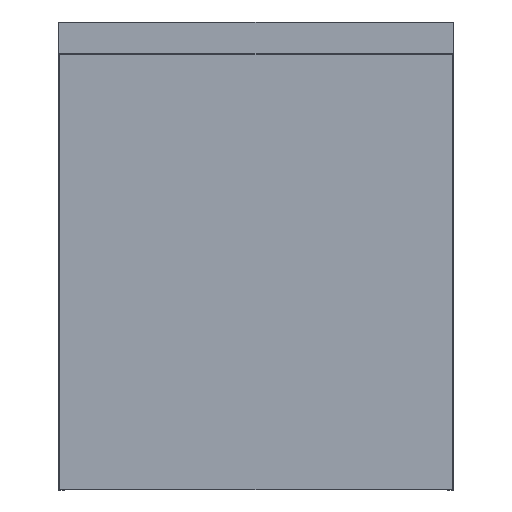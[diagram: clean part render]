
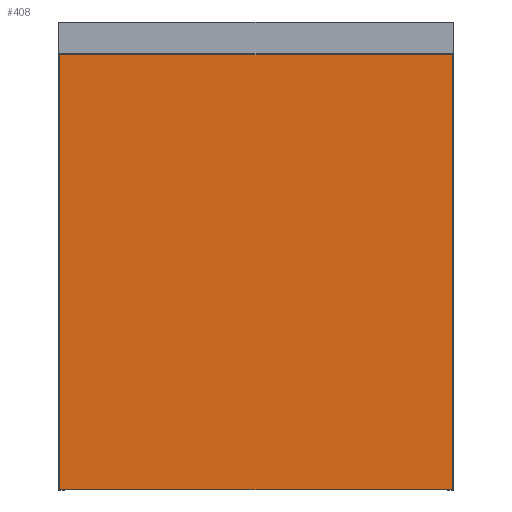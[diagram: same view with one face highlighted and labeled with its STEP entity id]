
A CAD part, top view. The second image highlights one B-rep face of the part: STEP entity #408.
In plain terms, the highlighted planar face has unit normal (0, 0, 1).
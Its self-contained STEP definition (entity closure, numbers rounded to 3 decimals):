
#8 = EDGE_LOOP ( 'NONE', ( #275, #427, #733, #431 ) ) ;
#99 = DIRECTION ( 'NONE',  ( -1., 0., 0. ) ) ;
#130 = CARTESIAN_POINT ( 'NONE',  ( 599., -356., 124. ) ) ;
#136 = CARTESIAN_POINT ( 'NONE',  ( 1., 306., 124. ) ) ;
#189 = CARTESIAN_POINT ( 'NONE',  ( 599., 306., 124. ) ) ;
#204 = CARTESIAN_POINT ( 'NONE',  ( 0., 0., 124. ) ) ;
#209 = DIRECTION ( 'NONE',  ( 0., -1., 0. ) ) ;
#218 = VECTOR ( 'NONE', #99, 1000. ) ;
#233 = EDGE_CURVE ( 'NONE', #329, #503, #405, .T. ) ;
#275 = ORIENTED_EDGE ( 'NONE', *, *, #233, .T. ) ;
#288 = EDGE_CURVE ( 'NONE', #503, #847, #709, .T. ) ;
#326 = DIRECTION ( 'NONE',  ( 0., 0., 1. ) ) ;
#329 = VERTEX_POINT ( 'NONE', #130 ) ;
#353 = DIRECTION ( 'NONE',  ( 0., 1., 0. ) ) ;
#360 = EDGE_CURVE ( 'NONE', #847, #621, #515, .T. ) ;
#405 = LINE ( 'NONE', #785, #921 ) ;
#408 = ADVANCED_FACE ( 'NONE', ( #587 ), #821, .T. ) ;
#427 = ORIENTED_EDGE ( 'NONE', *, *, #288, .T. ) ;
#431 = ORIENTED_EDGE ( 'NONE', *, *, #583, .T. ) ;
#503 = VERTEX_POINT ( 'NONE', #189 ) ;
#515 = LINE ( 'NONE', #136, #742 ) ;
#572 = DIRECTION ( 'NONE',  ( 1., 0., 0. ) ) ;
#576 = CARTESIAN_POINT ( 'NONE',  ( 1., 306., 124. ) ) ;
#583 = EDGE_CURVE ( 'NONE', #621, #329, #994, .T. ) ;
#587 = FACE_OUTER_BOUND ( 'NONE', #8, .T. ) ;
#604 = AXIS2_PLACEMENT_3D ( 'NONE', #204, #326, #572 ) ;
#621 = VERTEX_POINT ( 'NONE', #780 ) ;
#689 = DIRECTION ( 'NONE',  ( 1., 0., 0. ) ) ;
#695 = CARTESIAN_POINT ( 'NONE',  ( 1., -356., 124. ) ) ;
#709 = LINE ( 'NONE', #576, #218 ) ;
#733 = ORIENTED_EDGE ( 'NONE', *, *, #360, .T. ) ;
#742 = VECTOR ( 'NONE', #209, 1000. ) ;
#780 = CARTESIAN_POINT ( 'NONE',  ( 1., -356., 124. ) ) ;
#785 = CARTESIAN_POINT ( 'NONE',  ( 599., 306., 124. ) ) ;
#821 = PLANE ( 'NONE',  #604 ) ;
#847 = VERTEX_POINT ( 'NONE', #984 ) ;
#852 = VECTOR ( 'NONE', #689, 1000. ) ;
#921 = VECTOR ( 'NONE', #353, 1000. ) ;
#984 = CARTESIAN_POINT ( 'NONE',  ( 1., 306., 124. ) ) ;
#994 = LINE ( 'NONE', #695, #852 ) ;
